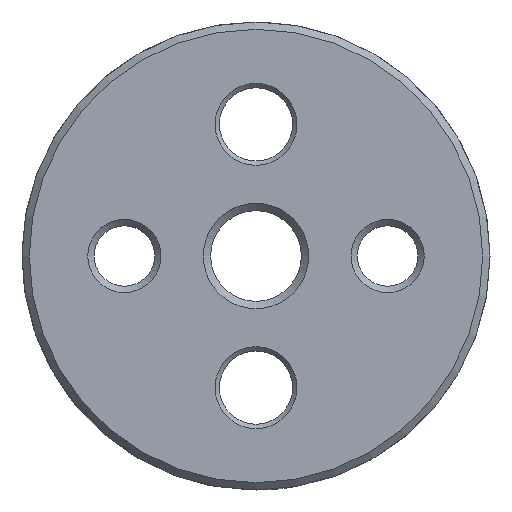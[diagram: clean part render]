
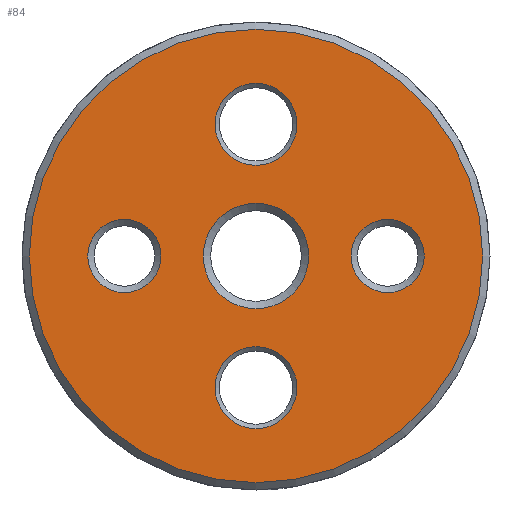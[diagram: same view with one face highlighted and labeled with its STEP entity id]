
A CAD part, front view. The second image highlights one B-rep face of the part: STEP entity #84.
In plain terms, the highlighted planar face has unit normal (0, -1, 0).
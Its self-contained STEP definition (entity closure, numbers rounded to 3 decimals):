
#84 = ADVANCED_FACE( '', ( #133, #134, #135, #136, #137, #138 ), #139, .F. );
#133 = FACE_BOUND( '', #223, .T. );
#134 = FACE_BOUND( '', #224, .T. );
#135 = FACE_BOUND( '', #225, .T. );
#136 = FACE_BOUND( '', #226, .T. );
#137 = FACE_BOUND( '', #227, .T. );
#138 = FACE_OUTER_BOUND( '', #228, .T. );
#139 = PLANE( '', #229 );
#223 = EDGE_LOOP( '', ( #362 ) );
#224 = EDGE_LOOP( '', ( #363 ) );
#225 = EDGE_LOOP( '', ( #364 ) );
#226 = EDGE_LOOP( '', ( #365 ) );
#227 = EDGE_LOOP( '', ( #366 ) );
#228 = EDGE_LOOP( '', ( #367 ) );
#229 = AXIS2_PLACEMENT_3D( '', #368, #369, #370 );
#362 = ORIENTED_EDGE( '', *, *, #528, .F. );
#363 = ORIENTED_EDGE( '', *, *, #529, .F. );
#364 = ORIENTED_EDGE( '', *, *, #530, .F. );
#365 = ORIENTED_EDGE( '', *, *, #531, .F. );
#366 = ORIENTED_EDGE( '', *, *, #532, .F. );
#367 = ORIENTED_EDGE( '', *, *, #527, .T. );
#368 = CARTESIAN_POINT( '', ( 15.5, 0., 0. ) );
#369 = DIRECTION( '', ( 0., 1., 0. ) );
#370 = DIRECTION( '', ( 0., 0., 1. ) );
#527 = EDGE_CURVE( '', #611, #611, #612, .T. );
#528 = EDGE_CURVE( '', #613, #613, #614, .T. );
#529 = EDGE_CURVE( '', #615, #615, #616, .F. );
#530 = EDGE_CURVE( '', #617, #617, #618, .T. );
#531 = EDGE_CURVE( '', #619, #619, #620, .T. );
#532 = EDGE_CURVE( '', #621, #621, #622, .T. );
#611 = VERTEX_POINT( '', #818 );
#612 = CIRCLE( '', #819, 15.5 );
#613 = VERTEX_POINT( '', #820 );
#614 = CIRCLE( '', #821, 3.6 );
#615 = VERTEX_POINT( '', #822 );
#616 = CIRCLE( '', #823, 2.5 );
#617 = VERTEX_POINT( '', #824 );
#618 = CIRCLE( '', #825, 2.8 );
#619 = VERTEX_POINT( '', #826 );
#620 = CIRCLE( '', #827, 2.8 );
#621 = VERTEX_POINT( '', #828 );
#622 = CIRCLE( '', #829, 2.5 );
#818 = CARTESIAN_POINT( '', ( 0., 0., -15.5 ) );
#819 = AXIS2_PLACEMENT_3D( '', #931, #932, #933 );
#820 = CARTESIAN_POINT( '', ( 0., 0., -3.6 ) );
#821 = AXIS2_PLACEMENT_3D( '', #934, #935, #936 );
#822 = CARTESIAN_POINT( '', ( 9., 0., 2.5 ) );
#823 = AXIS2_PLACEMENT_3D( '', #937, #938, #939 );
#824 = CARTESIAN_POINT( '', ( 0., 0., 6.2 ) );
#825 = AXIS2_PLACEMENT_3D( '', #940, #941, #942 );
#826 = CARTESIAN_POINT( '', ( 0., 0., -11.8 ) );
#827 = AXIS2_PLACEMENT_3D( '', #943, #944, #945 );
#828 = CARTESIAN_POINT( '', ( -9., 0., -2.5 ) );
#829 = AXIS2_PLACEMENT_3D( '', #946, #947, #948 );
#931 = CARTESIAN_POINT( '', ( 0., 0., 0. ) );
#932 = DIRECTION( '', ( 0., -1., 0. ) );
#933 = DIRECTION( '', ( 0., 0., -1. ) );
#934 = CARTESIAN_POINT( '', ( 0., 0., 0. ) );
#935 = DIRECTION( '', ( 0., -1., 0. ) );
#936 = DIRECTION( '', ( 0., 0., -1. ) );
#937 = CARTESIAN_POINT( '', ( 9., 0., 0. ) );
#938 = DIRECTION( '', ( 0., 1., 0. ) );
#939 = DIRECTION( '', ( 0., 0., 1. ) );
#940 = CARTESIAN_POINT( '', ( 0., 0., 9. ) );
#941 = DIRECTION( '', ( 0., -1., 0. ) );
#942 = DIRECTION( '', ( 0., 0., -1. ) );
#943 = CARTESIAN_POINT( '', ( 0., 0., -9. ) );
#944 = DIRECTION( '', ( 0., -1., 0. ) );
#945 = DIRECTION( '', ( 0., 0., -1. ) );
#946 = CARTESIAN_POINT( '', ( -9., 0., 0. ) );
#947 = DIRECTION( '', ( 0., -1., 0. ) );
#948 = DIRECTION( '', ( 0., 0., -1. ) );
